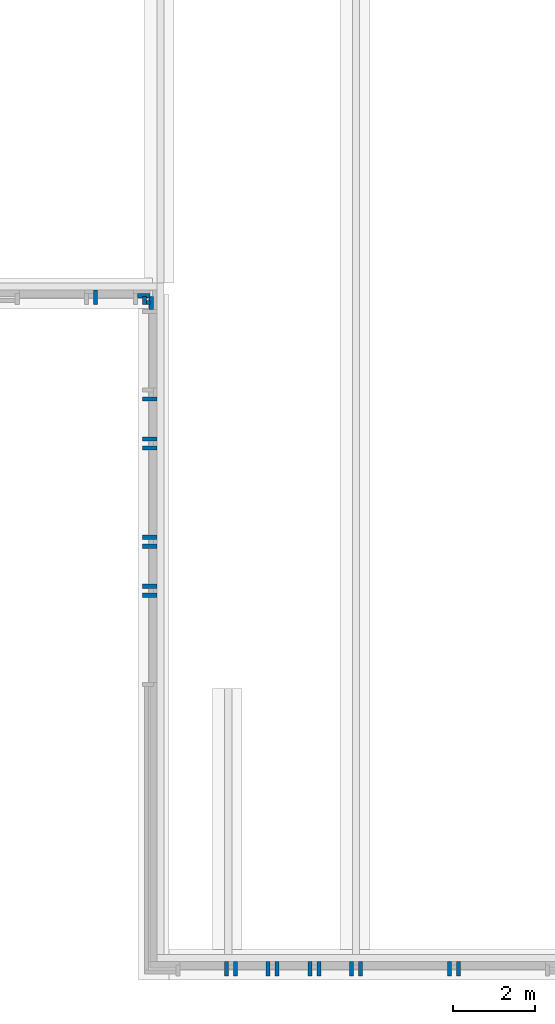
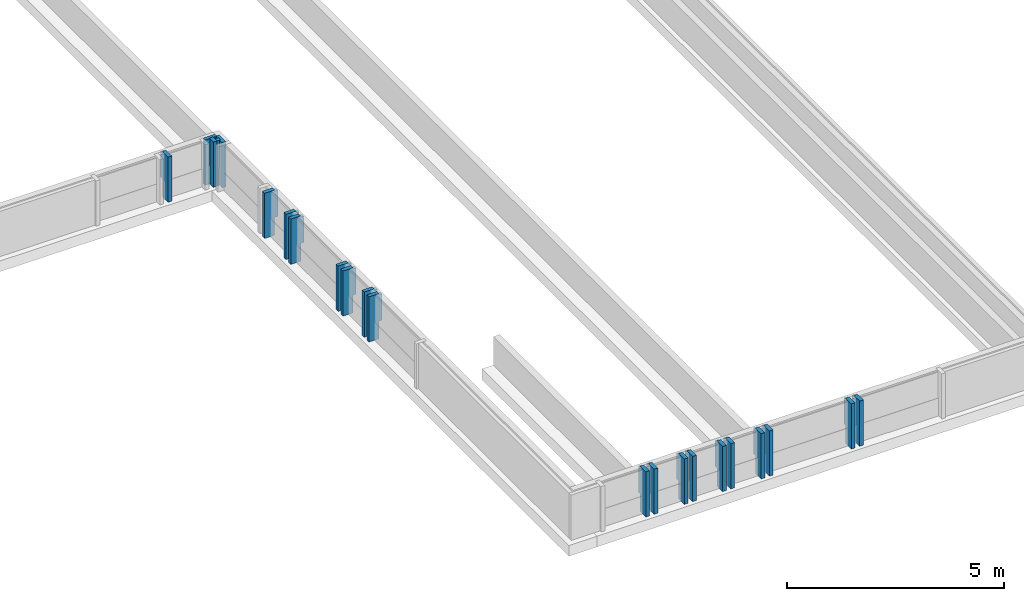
# One storey, part 10 of 15: 22 walls.
"""IFC2X3 building model written with IfcOpenShell, lengths in millimetres."""

from ifc_helpers import new_model, entity, si_unit, converted_unit, derived_unit, direction, frame, origin, place, context, subcontext, project, spatial, faceted_brep, material, layer, layer_set, type_object, element, save


model = new_model("IFC2X3")

# Units and contexts
model_context = context("Model", 3, precision=0.01, world=origin(), true_north=direction((6.123031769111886e-17, 1.0)))
body_context = subcontext(model_context, "Body", "Model", "MODEL_VIEW")
ifc_project = project(units=[si_unit("LENGTHUNIT", "METRE", prefix="MILLI"), si_unit("AREAUNIT", "SQUARE_METRE"), si_unit("VOLUMEUNIT", "CUBIC_METRE"), converted_unit("PLANEANGLEUNIT", "DEGREE", entity("IfcRatioMeasure", 0.017453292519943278), si_unit("PLANEANGLEUNIT", "RADIAN"), dimensions=[0, 0, 0, 0, 0, 0, 0]), si_unit("MASSUNIT", "GRAM", prefix="KILO"), derived_unit("MASSDENSITYUNIT", [(si_unit("MASSUNIT", "GRAM", prefix="KILO"), 1), (si_unit("LENGTHUNIT", "METRE"), -3)]), derived_unit("IONCONCENTRATIONUNIT", [(si_unit("MASSUNIT", "GRAM", prefix="KILO"), 1), (si_unit("LENGTHUNIT", "METRE"), -3)]), derived_unit("MOMENTOFINERTIAUNIT", [(si_unit("LENGTHUNIT", "METRE"), 4)]), si_unit("TIMEUNIT", "SECOND"), si_unit("FREQUENCYUNIT", "HERTZ"), si_unit("THERMODYNAMICTEMPERATUREUNIT", "DEGREE_CELSIUS"), derived_unit("THERMALTRANSMITTANCEUNIT", [(si_unit("MASSUNIT", "GRAM", prefix="KILO"), 1), (si_unit("THERMODYNAMICTEMPERATUREUNIT", "KELVIN"), -1), (si_unit("TIMEUNIT", "SECOND"), -3)]), derived_unit("THERMALCONDUCTANCEUNIT", [(si_unit("MASSUNIT", "GRAM", prefix="KILO"), 1), (si_unit("THERMODYNAMICTEMPERATUREUNIT", "KELVIN"), -1), (si_unit("TIMEUNIT", "SECOND"), -3), (si_unit("LENGTHUNIT", "METRE"), 1)]), derived_unit("VOLUMETRICFLOWRATEUNIT", [(si_unit("LENGTHUNIT", "METRE"), 3), (si_unit("TIMEUNIT", "SECOND"), -1)]), derived_unit("MASSFLOWRATEUNIT", [(si_unit("MASSUNIT", "GRAM", prefix="KILO"), 1), (si_unit("TIMEUNIT", "SECOND"), -1)]), derived_unit("ROTATIONALFREQUENCYUNIT", [(si_unit("TIMEUNIT", "SECOND"), -1)]), si_unit("ELECTRICCURRENTUNIT", "AMPERE"), si_unit("ELECTRICVOLTAGEUNIT", "VOLT"), si_unit("POWERUNIT", "WATT"), si_unit("FORCEUNIT", "NEWTON", prefix="KILO"), si_unit("ILLUMINANCEUNIT", "LUX"), si_unit("LUMINOUSFLUXUNIT", "LUMEN"), si_unit("LUMINOUSINTENSITYUNIT", "CANDELA"), derived_unit("USERDEFINED", [(si_unit("MASSUNIT", "GRAM", prefix="KILO"), -1), (si_unit("LENGTHUNIT", "METRE"), -2), (si_unit("TIMEUNIT", "SECOND"), 3), (si_unit("LUMINOUSFLUXUNIT", "LUMEN"), 1)]), derived_unit("USERDEFINED", [(si_unit("MASSUNIT", "GRAM", prefix="KILO"), 1), (si_unit("TIMEUNIT", "SECOND"), -3), (si_unit("LENGTHUNIT", "METRE"), 3), (si_unit("ELECTRICCURRENTUNIT", "AMPERE"), -2)]), derived_unit("SOUNDPOWERUNIT", [(si_unit("MASSUNIT", "GRAM", prefix="KILO"), 1), (si_unit("TIMEUNIT", "SECOND"), -3), (si_unit("LENGTHUNIT", "METRE"), 2)]), derived_unit("SOUNDPRESSUREUNIT", [(si_unit("MASSUNIT", "GRAM", prefix="KILO"), 1), (si_unit("LENGTHUNIT", "METRE"), -1), (si_unit("TIMEUNIT", "SECOND"), -2)]), derived_unit("LINEARVELOCITYUNIT", [(si_unit("LENGTHUNIT", "METRE"), 1), (si_unit("TIMEUNIT", "SECOND"), -1)]), si_unit("PRESSUREUNIT", "PASCAL"), derived_unit("USERDEFINED", [(si_unit("MASSUNIT", "GRAM", prefix="KILO"), 1), (si_unit("LENGTHUNIT", "METRE"), -2), (si_unit("TIMEUNIT", "SECOND"), -2)]), derived_unit("LINEARFORCEUNIT", [(si_unit("MASSUNIT", "GRAM", prefix="KILO"), 1), (si_unit("TIMEUNIT", "SECOND"), -2)]), derived_unit("PLANARFORCEUNIT", [(si_unit("MASSUNIT", "GRAM", prefix="KILO"), 1), (si_unit("LENGTHUNIT", "METRE"), -1), (si_unit("TIMEUNIT", "SECOND"), -2)]), derived_unit("SPECIFICHEATCAPACITYUNIT", [(si_unit("THERMODYNAMICTEMPERATUREUNIT", "KELVIN"), -1), (si_unit("LENGTHUNIT", "METRE"), 2), (si_unit("TIMEUNIT", "SECOND"), -2)]), derived_unit("HEATINGVALUEUNIT", [(si_unit("LENGTHUNIT", "METRE"), 2), (si_unit("TIMEUNIT", "SECOND"), -2)]), derived_unit("VAPORPERMEABILITYUNIT", [(si_unit("LENGTHUNIT", "METRE"), -1), (si_unit("TIMEUNIT", "SECOND"), 1)]), derived_unit("DYNAMICVISCOSITYUNIT", [(si_unit("MASSUNIT", "GRAM", prefix="KILO"), 1), (si_unit("TIMEUNIT", "SECOND"), -1), (si_unit("LENGTHUNIT", "METRE"), -1)]), derived_unit("THERMALEXPANSIONCOEFFICIENTUNIT", [(si_unit("THERMODYNAMICTEMPERATUREUNIT", "KELVIN"), -1)]), derived_unit("MODULUSOFELASTICITYUNIT", [(si_unit("MASSUNIT", "GRAM", prefix="KILO"), 1), (si_unit("LENGTHUNIT", "METRE"), -1), (si_unit("TIMEUNIT", "SECOND"), -2)]), derived_unit("ISOTHERMALMOISTURECAPACITYUNIT", [(si_unit("LENGTHUNIT", "METRE"), 3), (si_unit("MASSUNIT", "GRAM", prefix="KILO"), -1)]), derived_unit("MOISTUREDIFFUSIVITYUNIT", [(si_unit("TIMEUNIT", "SECOND"), -1), (si_unit("LENGTHUNIT", "METRE"), 2)])], contexts=[model_context])

# Site, building, storey
site_placement = place(None, frame((0.0, 300.0, 0.0)))
site = spatial("IfcSite", under=ifc_project, at=site_placement, Name="<Kadastrale nummers>", CompositionType="ELEMENT")
building_placement = place(site_placement, origin())
building = spatial("IfcBuilding", under=site, at=building_placement, CompositionType="ELEMENT")
storey_placement = place(building_placement, frame((0.0, 0.0, -1570.0)))
storey = spatial("IfcBuildingStorey", under=building, at=storey_placement, Name="-1 fundering", CompositionType="ELEMENT", Elevation=-1570.0)

# Walls
ifc_material = material(Name="ISR_Metselwerk")
ifc_layer = layer(ifc_material, 100.0)
ifc_layer_set = layer_set([ifc_layer], Name="Basic Wall:21_DAT_metselwerk_100")
wall_type = type_object("IfcWallType", Name="Basic Wall:21_DAT_metselwerk_100", PredefinedType="STANDARD", material=ifc_layer_set)
wall_1_placement = place(storey_placement, frame((36365.0, 18919.998623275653, 300.0), z_axis=(0.0, 0.0, 1.0), x_axis=(-1.0, 0.0, 0.0)))
element("IfcWall", 1, at=wall_1_placement, inside=storey, type_object=wall_type, Name="Basic Wall:21_DAT_metselwerk_100", ObjectType="Basic Wall:21_DAT_metselwerk_100", context=body_context, shape_type="Brep", body=[
    faceted_brep([(40.0, -50.0, 0.0), (310.0, -50.0, 0.0), (310.0, -50.0, 1270.0), (0.0, -50.0, 1270.0), (0.0, -50.0, 600.0), (40.0, -50.0, 600.0), (40.0, 50.0, 0.0), (40.0, 50.0, 600.0), (0.0, 50.0, 600.0), (0.0, 50.0, 1270.0), (310.0, 50.0, 1270.0), (310.0, 50.0, 0.0), (40.0, -35.0, 0.0)], [[[0, 1, 2, 3, 4, 5]], [[6, 7, 8, 9, 10, 11]], [[1, 0, 12, 6, 11]], [[3, 2, 10, 9]], [[4, 8, 7, 5]], [[0, 5, 7, 6, 12]], [[4, 3, 9, 8]], [[2, 1, 11, 10]]]),
])
wall_2_placement = place(storey_placement, frame((36390.0, 18894.998623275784, 300.0), z_axis=(0.0, 0.0, 1.0), x_axis=(0.0, -1.0, 0.0)))
element("IfcWall", 2, at=wall_2_placement, inside=storey, type_object=wall_type, Name="Basic Wall:21_DAT_metselwerk_100", ObjectType="Basic Wall:21_DAT_metselwerk_100", context=body_context, shape_type="Brep", body=[
    faceted_brep([(25.0, -50.0, 0.0), (310.0, -50.0, 0.0), (310.0, -50.0, 1270.0), (0.0, -50.0, 1270.0), (0.0, -50.0, 600.0), (25.0, -50.0, 600.0), (25.0, 50.0, 0.0), (25.0, 50.0, 600.0), (0.0, 50.0, 600.0), (0.0, 50.0, 1270.0), (310.0, 50.0, 1270.0), (310.0, 50.0, 0.0), (0.0, -25.0, 1270.0), (0.0, -25.0, 600.0)], [[[0, 1, 2, 3, 4, 5]], [[6, 7, 8, 9, 10, 11]], [[1, 0, 6, 11]], [[3, 2, 10, 9, 12]], [[4, 13, 8, 7, 5]], [[0, 5, 7, 6]], [[4, 3, 12, 9, 8, 13]], [[2, 1, 11, 10]]]),
])
wall_3_placement = place(storey_placement, frame((36525.0, 11810.0, 300.0), z_axis=(0.0, 0.0, 1.0), x_axis=(-1.0, 0.0, 0.0)))
element("IfcWall", 3, at=wall_3_placement, inside=storey, type_object=wall_type, Name="Basic Wall:21_DAT_metselwerk_100", ObjectType="Basic Wall:21_DAT_metselwerk_100", context=body_context, shape_type="Brep", body=[
    faceted_brep([(85.0, -50.0, 0.0), (350.0, -50.0, 0.0), (350.0, -50.0, 1270.0), (85.0, -50.0, 1270.0), (85.0, -50.0, 1230.0), (0.0, -50.0, 1230.0), (0.0, -50.0, 500.0), (85.0, -50.0, 500.0), (85.0, 50.0, 0.0), (85.0, 50.0, 500.0), (0.0, 50.0, 500.0), (0.0, 50.0, 1230.0), (85.0, 50.0, 1230.0), (85.0, 50.0, 1270.0), (185.0, 50.0, 1270.0), (350.0, 50.0, 1270.0), (350.0, 50.0, 0.0), (185.0, 50.0, 0.0)], [[[0, 1, 2, 3, 4, 5, 6, 7]], [[8, 9, 10, 11, 12, 13, 14, 15, 16, 17]], [[1, 0, 8, 17, 16]], [[2, 1, 16, 15]], [[3, 2, 15, 14, 13]], [[6, 10, 9, 7]], [[4, 12, 11, 5]], [[0, 7, 9, 8]], [[6, 5, 11, 10]], [[4, 3, 13, 12]]]),
])
wall_4_placement = place(storey_placement, frame((36525.0, 11590.0, 300.0), z_axis=(0.0, 0.0, 1.0), x_axis=(-1.0, 0.0, 0.0)))
element("IfcWall", 4, at=wall_4_placement, inside=storey, type_object=wall_type, Name="Basic Wall:21_DAT_metselwerk_100", ObjectType="Basic Wall:21_DAT_metselwerk_100", context=body_context, shape_type="Brep", body=[
    faceted_brep([(85.0, -50.0, 0.0), (185.0, -50.0, 0.0), (350.0, -50.0, 0.0), (350.0, -50.0, 1270.0), (185.0, -50.0, 1270.0), (85.0, -50.0, 1270.0), (85.0, -50.0, 1230.0), (0.0, -50.0, 1230.0), (0.0, -50.0, 500.0), (85.0, -50.0, 500.0), (85.0, 50.0, 0.0), (85.0, 50.0, 500.0), (0.0, 50.0, 500.0), (0.0, 50.0, 1230.0), (85.0, 50.0, 1230.0), (85.0, 50.0, 1270.0), (350.0, 50.0, 1270.0), (350.0, 50.0, 0.0)], [[[0, 1, 2, 3, 4, 5, 6, 7, 8, 9]], [[10, 11, 12, 13, 14, 15, 16, 17]], [[2, 1, 0, 10, 17]], [[3, 2, 17, 16]], [[5, 4, 3, 16, 15]], [[8, 12, 11, 9]], [[6, 14, 13, 7]], [[0, 9, 11, 10]], [[8, 7, 13, 12]], [[6, 5, 15, 14]]]),
])
wall_5_placement = place(storey_placement, frame((38230.0, 2625.0, 300.0), z_axis=(0.0, 0.0, 1.0), x_axis=(0.0, -1.0, 0.0)))
element("IfcWall", 5, at=wall_5_placement, inside=storey, type_object=wall_type, Name="Basic Wall:21_DAT_metselwerk_100", ObjectType="Basic Wall:21_DAT_metselwerk_100", context=body_context, shape_type="Brep", body=[
    faceted_brep([(85.0013767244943, -50.0, 0.0), (350.0013767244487, -50.0, 0.0), (350.0013767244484, -50.0, 1270.0), (85.0013767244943, -50.0, 1270.0), (85.0013767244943, -50.0, 1230.0), (0.0, -50.0, 1230.0), (0.0, -50.0, 500.0), (85.0013767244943, -50.0, 500.0), (85.00137672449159, 50.0, 0.0), (85.00137672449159, 50.0, 500.0), (0.0, 50.0, 500.0), (0.0, 50.0, 1230.0), (85.00137672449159, 50.0, 1230.0), (85.00137672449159, 50.0, 1270.0), (185.0013767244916, 50.0, 1270.0), (350.0013767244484, 50.0, 1270.0), (350.0013767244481, 50.0, 0.0), (185.0013767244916, 50.0, 0.0)], [[[0, 1, 2, 3, 4, 5, 6, 7]], [[8, 9, 10, 11, 12, 13, 14, 15, 16, 17]], [[1, 0, 8, 17, 16]], [[2, 1, 16, 15]], [[3, 2, 15, 14, 13]], [[6, 10, 9, 7]], [[4, 12, 11, 5]], [[0, 7, 9, 8]], [[6, 5, 11, 10]], [[4, 3, 13, 12]]]),
])
wall_6_placement = place(storey_placement, frame((38450.0, 2625.0, 300.0), z_axis=(0.0, 0.0, 1.0), x_axis=(0.0, -1.0, 0.0)))
element("IfcWall", 6, at=wall_6_placement, inside=storey, type_object=wall_type, Name="Basic Wall:21_DAT_metselwerk_100", ObjectType="Basic Wall:21_DAT_metselwerk_100", context=body_context, shape_type="Brep", body=[
    faceted_brep([(85.0013767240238, -50.0, 0.0), (185.0013767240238, -50.0, 0.0), (350.00137672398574, -50.0, 0.0), (350.001376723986, -50.0, 1270.0), (185.0013767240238, -50.0, 1270.0), (85.0013767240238, -50.0, 1270.0), (85.0013767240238, -50.0, 1230.0), (0.0, -50.0, 1230.0), (0.0, -50.0, 500.0), (85.0013767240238, -50.0, 500.0), (85.00137672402, 50.0, 0.0), (85.00137672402, 50.0, 500.0), (0.0, 50.0, 500.0), (0.0, 50.0, 1230.0), (85.00137672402, 50.0, 1230.0), (85.00137672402, 50.0, 1270.0), (350.001376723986, 50.0, 1270.0), (350.0013767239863, 50.0, 0.0)], [[[0, 1, 2, 3, 4, 5, 6, 7, 8, 9]], [[10, 11, 12, 13, 14, 15, 16, 17]], [[2, 1, 0, 10, 17]], [[3, 2, 17, 16]], [[5, 4, 3, 16, 15]], [[8, 12, 11, 9]], [[6, 14, 13, 7]], [[0, 9, 11, 10]], [[8, 7, 13, 12]], [[6, 5, 15, 14]]]),
])
wall_7_placement = place(storey_placement, frame((39250.0, 2625.0, 300.0), z_axis=(0.0, 0.0, 1.0), x_axis=(0.0, -1.0, 0.0)))
element("IfcWall", 7, at=wall_7_placement, inside=storey, type_object=wall_type, Name="Basic Wall:21_DAT_metselwerk_100", ObjectType="Basic Wall:21_DAT_metselwerk_100", context=body_context, shape_type="Brep", body=[
    faceted_brep([(85.00137672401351, -50.0, 0.0), (350.0013767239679, -50.0, 0.0), (350.0013767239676, -50.0, 1270.0), (85.00137672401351, -50.0, 1270.0), (85.00137672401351, -50.0, 1230.0), (0.0, -50.0, 1230.0), (0.0, -50.0, 500.0), (85.00137672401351, -50.0, 500.0), (85.00137672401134, 50.0, 0.0), (85.00137672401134, 50.0, 500.0), (0.0, 50.0, 500.0), (0.0, 50.0, 1230.0), (85.00137672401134, 50.0, 1230.0), (85.00137672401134, 50.0, 1270.0), (185.00137672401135, 50.0, 1270.0), (350.0013767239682, 50.0, 1270.0), (350.0013767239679, 50.0, 0.0), (185.00137672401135, 50.0, 0.0)], [[[0, 1, 2, 3, 4, 5, 6, 7]], [[8, 9, 10, 11, 12, 13, 14, 15, 16, 17]], [[1, 0, 8, 17, 16]], [[2, 1, 16, 15]], [[3, 2, 15, 14, 13]], [[6, 10, 9, 7]], [[4, 12, 11, 5]], [[0, 7, 9, 8]], [[6, 5, 11, 10]], [[4, 3, 13, 12]]]),
])
wall_8_placement = place(storey_placement, frame((39470.0, 2625.0, 300.0), z_axis=(0.0, 0.0, 1.0), x_axis=(0.0, -1.0, 0.0)))
element("IfcWall", 8, at=wall_8_placement, inside=storey, type_object=wall_type, Name="Basic Wall:21_DAT_metselwerk_100", ObjectType="Basic Wall:21_DAT_metselwerk_100", context=body_context, shape_type="Brep", body=[
    faceted_brep([(85.0013767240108, -50.0, 0.0), (185.0013767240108, -50.0, 0.0), (350.0013767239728, -50.0, 0.0), (350.001376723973, -50.0, 1270.0), (185.0013767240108, -50.0, 1270.0), (85.0013767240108, -50.0, 1270.0), (85.0013767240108, -50.0, 1230.0), (0.0, -50.0, 1230.0), (0.0, -50.0, 500.0), (85.0013767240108, -50.0, 500.0), (85.00137672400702, 50.0, 0.0), (85.00137672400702, 50.0, 500.0), (0.0, 50.0, 500.0), (0.0, 50.0, 1230.0), (85.00137672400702, 50.0, 1230.0), (85.00137672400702, 50.0, 1270.0), (350.001376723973, 50.0, 1270.0), (350.0013767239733, 50.0, 0.0)], [[[0, 1, 2, 3, 4, 5, 6, 7, 8, 9]], [[10, 11, 12, 13, 14, 15, 16, 17]], [[2, 1, 0, 10, 17]], [[3, 2, 17, 16]], [[5, 4, 3, 16, 15]], [[8, 12, 11, 9]], [[6, 14, 13, 7]], [[0, 9, 11, 10]], [[8, 7, 13, 12]], [[6, 5, 15, 14]]]),
])
wall_9_placement = place(storey_placement, frame((40270.0, 2625.0, 300.0), z_axis=(0.0, 0.0, 1.0), x_axis=(0.0, -1.0, 0.0)))
element("IfcWall", 9, at=wall_9_placement, inside=storey, type_object=wall_type, Name="Basic Wall:21_DAT_metselwerk_100", ObjectType="Basic Wall:21_DAT_metselwerk_100", context=body_context, shape_type="Brep", body=[
    faceted_brep([(85.00137672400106, -50.0, 0.0), (350.00137672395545, -50.0, 0.0), (350.00137672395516, -50.0, 1270.0), (85.00137672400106, -50.0, 1270.0), (85.00137672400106, -50.0, 1230.0), (0.0, -50.0, 1230.0), (0.0, -50.0, 500.0), (85.00137672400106, -50.0, 500.0), (85.00137672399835, 50.0, 0.0), (85.00137672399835, 50.0, 500.0), (0.0, 50.0, 500.0), (0.0, 50.0, 1230.0), (85.00137672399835, 50.0, 1230.0), (85.00137672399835, 50.0, 1270.0), (185.00137672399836, 50.0, 1270.0), (350.00137672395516, 50.0, 1270.0), (350.0013767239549, 50.0, 0.0), (185.00137672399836, 50.0, 0.0)], [[[0, 1, 2, 3, 4, 5, 6, 7]], [[8, 9, 10, 11, 12, 13, 14, 15, 16, 17]], [[1, 0, 8, 17, 16]], [[2, 1, 16, 15]], [[3, 2, 15, 14, 13]], [[6, 10, 9, 7]], [[4, 12, 11, 5]], [[0, 7, 9, 8]], [[6, 5, 11, 10]], [[4, 3, 13, 12]]]),
])
wall_10_placement = place(storey_placement, frame((40490.0, 2625.0, 300.0), z_axis=(0.0, 0.0, 1.0), x_axis=(0.0, -1.0, 0.0)))
element("IfcWall", 10, at=wall_10_placement, inside=storey, type_object=wall_type, Name="Basic Wall:21_DAT_metselwerk_100", ObjectType="Basic Wall:21_DAT_metselwerk_100", context=body_context, shape_type="Brep", body=[
    faceted_brep([(85.00137672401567, -50.0, 0.0), (185.00137672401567, -50.0, 0.0), (350.0013767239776, -50.0, 0.0), (350.0013767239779, -50.0, 1270.0), (185.00137672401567, -50.0, 1270.0), (85.00137672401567, -50.0, 1270.0), (85.00137672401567, -50.0, 1230.0), (0.0, -50.0, 1230.0), (0.0, -50.0, 500.0), (85.00137672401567, -50.0, 500.0), (85.00137672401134, 50.0, 0.0), (85.00137672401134, 50.0, 500.0), (0.0, 50.0, 500.0), (0.0, 50.0, 1230.0), (85.00137672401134, 50.0, 1230.0), (85.00137672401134, 50.0, 1270.0), (350.00137672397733, 50.0, 1270.0), (350.0013767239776, 50.0, 0.0)], [[[0, 1, 2, 3, 4, 5, 6, 7, 8, 9]], [[10, 11, 12, 13, 14, 15, 16, 17]], [[2, 1, 0, 10, 17]], [[3, 2, 17, 16]], [[5, 4, 3, 16, 15]], [[8, 12, 11, 9]], [[6, 14, 13, 7]], [[0, 9, 11, 10]], [[8, 7, 13, 12]], [[6, 5, 15, 14]]]),
])
wall_11_placement = place(storey_placement, frame((41290.0, 2625.0, 300.0), z_axis=(0.0, 0.0, 1.0), x_axis=(0.0, -1.0, 0.0)))
element("IfcWall", 11, at=wall_11_placement, inside=storey, type_object=wall_type, Name="Basic Wall:21_DAT_metselwerk_100", ObjectType="Basic Wall:21_DAT_metselwerk_100", context=body_context, shape_type="Brep", body=[
    faceted_brep([(85.00137672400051, -50.0, 0.0), (350.0013767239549, -50.0, 0.0), (350.0013767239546, -50.0, 1270.0), (85.00137672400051, -50.0, 1270.0), (85.00137672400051, -50.0, 1230.0), (0.0, -50.0, 1230.0), (0.0, -50.0, 500.0), (85.00137672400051, -50.0, 500.0), (85.00137672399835, 50.0, 0.0), (85.00137672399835, 50.0, 500.0), (0.0, 50.0, 500.0), (0.0, 50.0, 1230.0), (85.00137672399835, 50.0, 1230.0), (85.00137672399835, 50.0, 1270.0), (185.00137672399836, 50.0, 1270.0), (350.00137672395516, 50.0, 1270.0), (350.0013767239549, 50.0, 0.0), (185.00137672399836, 50.0, 0.0)], [[[0, 1, 2, 3, 4, 5, 6, 7]], [[8, 9, 10, 11, 12, 13, 14, 15, 16, 17]], [[1, 0, 8, 17, 16]], [[2, 1, 16, 15]], [[3, 2, 15, 14, 13]], [[6, 10, 9, 7]], [[4, 12, 11, 5]], [[0, 7, 9, 8]], [[6, 5, 11, 10]], [[4, 3, 13, 12]]]),
])
wall_12_placement = place(storey_placement, frame((41510.0, 2624.9986232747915, 300.0), z_axis=(0.0, 0.0, 1.0), x_axis=(0.0, -1.0, 0.0)))
element("IfcWall", 12, at=wall_12_placement, inside=storey, type_object=wall_type, Name="Basic Wall:21_DAT_metselwerk_100", ObjectType="Basic Wall:21_DAT_metselwerk_100", context=body_context, shape_type="Brep", body=[
    faceted_brep([(85.0, -50.0, 0.0), (185.0, -50.0, 0.0), (350.0, -50.0, 0.0), (350.0, -50.0, 1270.0), (185.0, -50.0, 1270.0), (85.0, -50.0, 1270.0), (85.0, -50.0, 1230.0), (0.0, -50.0, 1230.0), (0.0, -50.0, 500.0), (85.0, -50.0, 500.0), (85.0, 50.0, 0.0), (85.0, 50.0, 500.0), (0.0, 50.0, 500.0), (0.0, 50.0, 1230.0), (85.0, 50.0, 1230.0), (85.0, 50.0, 1270.0), (350.0, 50.0, 1270.0), (350.0, 50.0, 0.0)], [[[0, 1, 2, 3, 4, 5, 6, 7, 8, 9]], [[10, 11, 12, 13, 14, 15, 16, 17]], [[2, 1, 0, 10, 17]], [[3, 2, 17, 16]], [[5, 4, 3, 16, 15]], [[8, 12, 11, 9]], [[6, 14, 13, 7]], [[0, 9, 11, 10]], [[8, 7, 13, 12]], [[6, 5, 15, 14]]]),
])
wall_13_placement = place(storey_placement, frame((43690.0, 2624.998623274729, 300.0), z_axis=(0.0, 0.0, 1.0), x_axis=(0.0, -1.0, 0.0)))
element("IfcWall", 13, at=wall_13_placement, inside=storey, type_object=wall_type, Name="Basic Wall:21_DAT_metselwerk_100", ObjectType="Basic Wall:21_DAT_metselwerk_100", context=body_context, shape_type="Brep", body=[
    faceted_brep([(85.0, -50.0, 0.0), (350.0, -50.0, 0.0), (350.0, -50.0, 1270.0), (85.0, -50.0, 1270.0), (85.0, -50.0, 1230.0), (0.0, -50.0, 1230.0), (0.0, -50.0, 500.0), (85.0, -50.0, 500.0), (85.0, 50.0, 0.0), (85.0, 50.0, 500.0), (0.0, 50.0, 500.0), (0.0, 50.0, 1230.0), (85.0, 50.0, 1230.0), (85.0, 50.0, 1270.0), (185.0, 50.0, 1270.0), (350.0, 50.0, 1270.0), (350.0, 50.0, 0.0), (185.0, 50.0, 0.0)], [[[0, 1, 2, 3, 4, 5, 6, 7]], [[8, 9, 10, 11, 12, 13, 14, 15, 16, 17]], [[1, 0, 8, 17, 16]], [[2, 1, 16, 15]], [[3, 2, 15, 14, 13]], [[6, 10, 9, 7]], [[4, 12, 11, 5]], [[0, 7, 9, 8]], [[6, 5, 11, 10]], [[4, 3, 13, 12]]]),
])
wall_14_placement = place(storey_placement, frame((43910.0, 2624.9986232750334, 300.0), z_axis=(0.0, 0.0, 1.0), x_axis=(0.0, -1.0, 0.0)))
element("IfcWall", 14, at=wall_14_placement, inside=storey, type_object=wall_type, Name="Basic Wall:21_DAT_metselwerk_100", ObjectType="Basic Wall:21_DAT_metselwerk_100", context=body_context, shape_type="Brep", body=[
    faceted_brep([(85.0, -50.0, 0.0), (185.0, -50.0, 0.0), (350.0, -50.0, 0.0), (350.0, -50.0, 1270.0), (185.0, -50.0, 1270.0), (85.0, -50.0, 1270.0), (85.0, -50.0, 1230.0), (0.0, -50.0, 1230.0), (0.0, -50.0, 500.0), (85.0, -50.0, 500.0), (85.0, 50.0, 0.0), (85.0, 50.0, 500.0), (0.0, 50.0, 500.0), (0.0, 50.0, 1230.0), (85.0, 50.0, 1230.0), (85.0, 50.0, 1270.0), (350.0, 50.0, 1270.0), (350.0, 50.0, 0.0)], [[[0, 1, 2, 3, 4, 5, 6, 7, 8, 9]], [[10, 11, 12, 13, 14, 15, 16, 17]], [[2, 1, 0, 10, 17]], [[3, 2, 17, 16]], [[5, 4, 3, 16, 15]], [[8, 12, 11, 9]], [[6, 14, 13, 7]], [[0, 9, 11, 10]], [[8, 7, 13, 12]], [[6, 5, 15, 14]]]),
])
wall_15_placement = place(storey_placement, frame((36525.0, 13010.0, 300.0), z_axis=(0.0, 0.0, 1.0), x_axis=(-1.0, 0.0, 0.0)))
element("IfcWall", 15, at=wall_15_placement, inside=storey, type_object=wall_type, Name="Basic Wall:21_DAT_metselwerk_100", ObjectType="Basic Wall:21_DAT_metselwerk_100", context=body_context, shape_type="Brep", body=[
    faceted_brep([(85.0, -50.0, 0.0), (350.0, -50.0, 0.0), (350.0, -50.0, 1270.0), (85.0, -50.0, 1270.0), (85.0, -50.0, 1230.0), (0.0, -50.0, 1230.0), (0.0, -50.0, 500.0), (85.0, -50.0, 500.0), (85.0, 50.0, 0.0), (85.0, 50.0, 500.0), (0.0, 50.0, 500.0), (0.0, 50.0, 1230.0), (85.0, 50.0, 1230.0), (85.0, 50.0, 1270.0), (185.0, 50.0, 1270.0), (350.0, 50.0, 1270.0), (350.0, 50.0, 0.0), (185.0, 50.0, 0.0)], [[[0, 1, 2, 3, 4, 5, 6, 7]], [[8, 9, 10, 11, 12, 13, 14, 15, 16, 17]], [[1, 0, 8, 17, 16]], [[2, 1, 16, 15]], [[3, 2, 15, 14, 13]], [[6, 10, 9, 7]], [[4, 12, 11, 5]], [[0, 7, 9, 8]], [[6, 5, 11, 10]], [[4, 3, 13, 12]]]),
])
wall_16_placement = place(storey_placement, frame((36525.0, 12790.0, 300.0), z_axis=(0.0, 0.0, 1.0), x_axis=(-1.0, 0.0, 0.0)))
element("IfcWall", 16, at=wall_16_placement, inside=storey, type_object=wall_type, Name="Basic Wall:21_DAT_metselwerk_100", ObjectType="Basic Wall:21_DAT_metselwerk_100", context=body_context, shape_type="Brep", body=[
    faceted_brep([(85.0, -50.0, 0.0), (185.0, -50.0, 0.0), (350.0, -50.0, 0.0), (350.0, -50.0, 1270.0), (185.0, -50.0, 1270.0), (85.0, -50.0, 1270.0), (85.0, -50.0, 1230.0), (0.0, -50.0, 1230.0), (0.0, -50.0, 500.0), (85.0, -50.0, 500.0), (85.0, 50.0, 0.0), (85.0, 50.0, 500.0), (0.0, 50.0, 500.0), (0.0, 50.0, 1230.0), (85.0, 50.0, 1230.0), (85.0, 50.0, 1270.0), (350.0, 50.0, 1270.0), (350.0, 50.0, 0.0)], [[[0, 1, 2, 3, 4, 5, 6, 7, 8, 9]], [[10, 11, 12, 13, 14, 15, 16, 17]], [[2, 1, 0, 10, 17]], [[3, 2, 17, 16]], [[5, 4, 3, 16, 15]], [[8, 12, 11, 9]], [[6, 14, 13, 7]], [[0, 9, 11, 10]], [[8, 7, 13, 12]], [[6, 5, 15, 14]]]),
])
wall_17_placement = place(storey_placement, frame((36525.0, 15410.0, 300.0), z_axis=(0.0, 0.0, 1.0), x_axis=(-1.0, 0.0, 0.0)))
element("IfcWall", 17, at=wall_17_placement, inside=storey, type_object=wall_type, Name="Basic Wall:21_DAT_metselwerk_100", ObjectType="Basic Wall:21_DAT_metselwerk_100", context=body_context, shape_type="Brep", body=[
    faceted_brep([(85.0, -50.0, 0.0), (350.0, -50.0, 0.0), (350.0, -50.0, 1270.0), (85.0, -50.0, 1270.0), (85.0, -50.0, 1230.0), (0.0, -50.0, 1230.0), (0.0, -50.0, 500.0), (85.0, -50.0, 500.0), (85.0, 50.0, 0.0), (85.0, 50.0, 500.0), (0.0, 50.0, 500.0), (0.0, 50.0, 1230.0), (85.0, 50.0, 1230.0), (85.0, 50.0, 1270.0), (185.0, 50.0, 1270.0), (350.0, 50.0, 1270.0), (350.0, 50.0, 0.0), (185.0, 50.0, 0.0)], [[[0, 1, 2, 3, 4, 5, 6, 7]], [[8, 9, 10, 11, 12, 13, 14, 15, 16, 17]], [[1, 0, 8, 17, 16]], [[2, 1, 16, 15]], [[3, 2, 15, 14, 13]], [[6, 10, 9, 7]], [[4, 12, 11, 5]], [[0, 7, 9, 8]], [[6, 5, 11, 10]], [[4, 3, 13, 12]]]),
])
for number, where, z_axis, x_axis, name in (
    (18, (36525.0, 15190.0, 300.0), (0.0, 0.0, 1.0), (-1.0, 0.0, 0.0), "Basic Wall:21_DAT_metselwerk_100"),
    (19, (36525.0, 16390.0, 300.0), (0.0, 0.0, 1.0), (-1.0, 0.0, 0.0), "Basic Wall:21_DAT_metselwerk_100"),
    (20, (35025.0, 19054.998623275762, 300.0), (0.0, 0.0, 1.0), (0.0, -1.0, 0.0), "Basic Wall:21_DAT_metselwerk_100"),
):
    element("IfcWall", number, at=place(storey_placement, frame(where, z_axis=z_axis, x_axis=x_axis)), inside=storey, type_object=wall_type, Name=name, ObjectType="Basic Wall:21_DAT_metselwerk_100", context=body_context, shape_type="Brep", body=[
        faceted_brep([(85.0, -50.0, 0.0), (185.0, -50.0, 0.0), (350.0, -50.0, 0.0), (350.0, -50.0, 1270.0), (185.0, -50.0, 1270.0), (85.0, -50.0, 1270.0), (85.0, -50.0, 1230.0), (0.0, -50.0, 1230.0), (0.0, -50.0, 500.0), (85.0, -50.0, 500.0), (85.0, 50.0, 0.0), (85.0, 50.0, 500.0), (0.0, 50.0, 500.0), (0.0, 50.0, 1230.0), (85.0, 50.0, 1230.0), (85.0, 50.0, 1270.0), (350.0, 50.0, 1270.0), (350.0, 50.0, 0.0)], [[[0, 1, 2, 3, 4, 5, 6, 7, 8, 9]], [[10, 11, 12, 13, 14, 15, 16, 17]], [[2, 1, 0, 10, 17]], [[3, 2, 17, 16]], [[5, 4, 3, 16, 15]], [[8, 12, 11, 9]], [[6, 14, 13, 7]], [[0, 9, 11, 10]], [[8, 7, 13, 12]], [[6, 5, 15, 14]]]),
    ])
wall_18_placement = place(storey_placement, frame((36225.0, 18894.998623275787, 300.0), z_axis=(0.0, 0.0, 1.0), x_axis=(0.0, -1.0, 0.0)))
element("IfcWall", 21, at=wall_18_placement, inside=storey, type_object=wall_type, Name="Basic Wall:21_DAT_metselwerk_100", ObjectType="Basic Wall:21_DAT_metselwerk_100", context=body_context, shape_type="Brep", body=[
    faceted_brep([(40.0, -50.0, 0.0), (190.0, -50.0, 0.0), (190.0, -50.0, 1270.0), (0.0, -50.0, 1270.0), (0.0, -50.0, 600.0), (25.0, -50.0, 600.0), (25.0, -50.0, 500.0), (40.0, -50.0, 500.0), (40.0, 50.0, 0.0), (40.0, 50.0, 500.0), (25.0, 50.0, 500.0), (25.0, 50.0, 600.0), (0.0, 50.0, 600.0), (0.0, 50.0, 1270.0), (90.0, 50.0, 1270.0), (190.0, 50.0, 1270.0), (190.0, 50.0, 0.0), (90.0, 50.0, 0.0)], [[[0, 1, 2, 3, 4, 5, 6, 7]], [[8, 9, 10, 11, 12, 13, 14, 15, 16, 17]], [[1, 0, 8, 17, 16]], [[3, 2, 15, 14, 13]], [[2, 1, 16, 15]], [[6, 10, 9, 7]], [[4, 12, 11, 5]], [[0, 7, 9, 8]], [[6, 5, 11, 10]], [[4, 3, 13, 12]]]),
])
wall_19_placement = place(storey_placement, frame((36365.0, 18754.998623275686, 300.0), z_axis=(0.0, 0.0, 1.0), x_axis=(-1.0, 0.0, 0.0)))
element("IfcWall", 22, at=wall_19_placement, inside=storey, type_object=wall_type, Name="Basic Wall:21_DAT_metselwerk_100", ObjectType="Basic Wall:21_DAT_metselwerk_100", context=body_context, shape_type="Brep", body=[
    faceted_brep([(40.0, -50.0, 0.0), (90.0, -50.0, 0.0), (90.0, -50.0, 1270.0), (0.0, -50.0, 1270.0), (0.0, -50.0, 600.0), (25.0, -50.0, 600.0), (25.0, -50.0, 500.0), (40.0, -50.0, 500.0), (40.0, 50.0, 0.0), (40.0, 50.0, 500.0), (25.0, 50.0, 500.0), (25.0, 50.0, 600.0), (0.0, 50.0, 600.0), (0.0, 50.0, 1270.0), (90.0, 50.0, 1270.0), (90.0, 50.0, 0.0)], [[[0, 1, 2, 3, 4, 5, 6, 7]], [[8, 9, 10, 11, 12, 13, 14, 15]], [[1, 0, 8, 15]], [[3, 2, 14, 13]], [[2, 1, 15, 14]], [[6, 10, 9, 7]], [[4, 12, 11, 5]], [[0, 7, 9, 8]], [[6, 5, 11, 10]], [[4, 3, 13, 12]]]),
])

save(model, "model.ifc")
